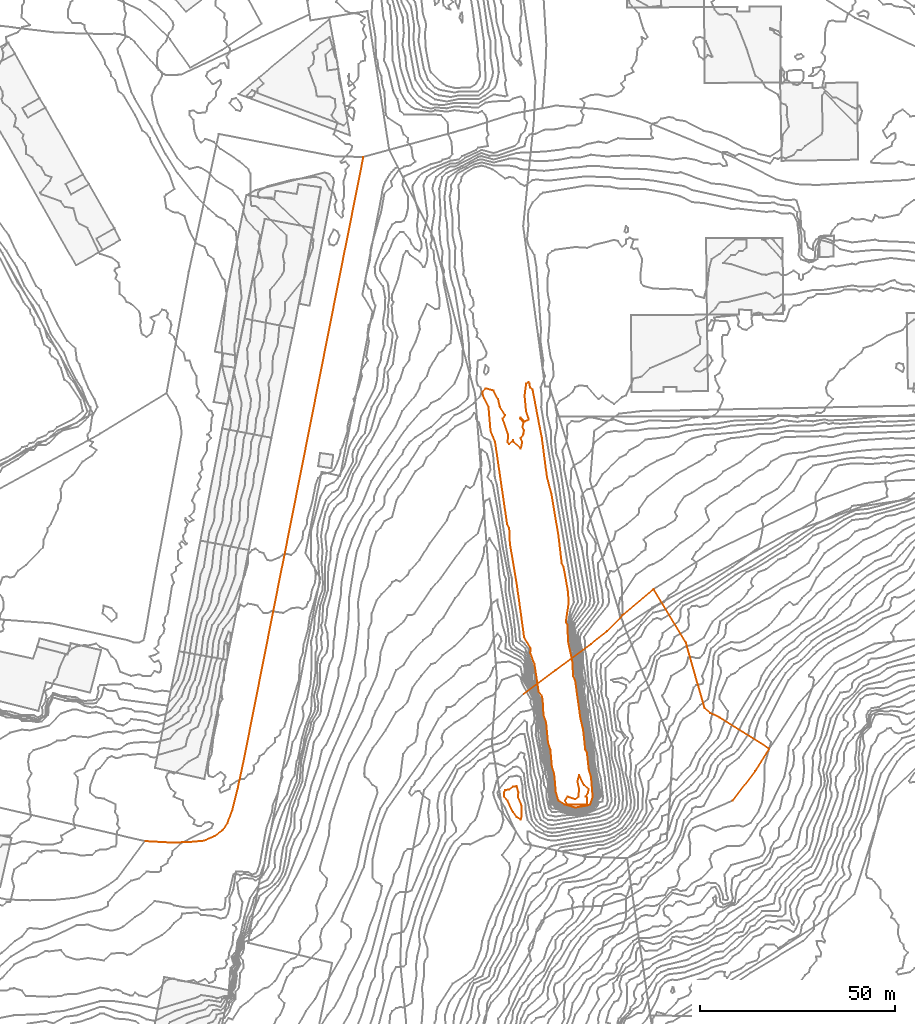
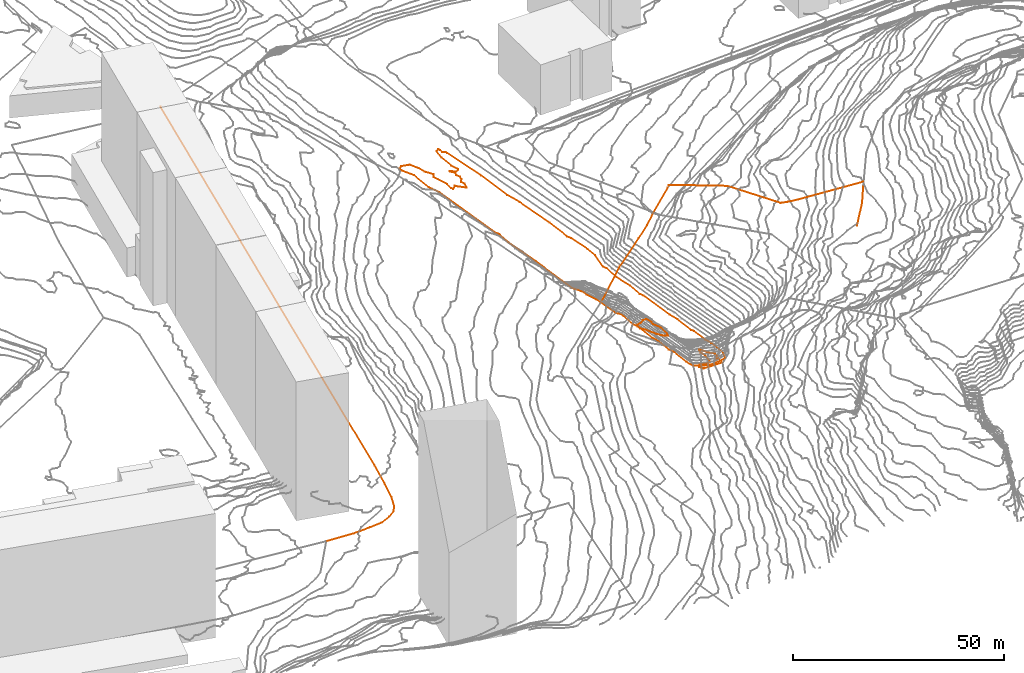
# Not in any storey, part 129 of 419: 9 proxies.
"""IFC2X3 model written with IfcOpenShell, lengths in metres."""

from ifc_helpers import new_model, entity, si_unit, frame, origin_with_axes, place, context, subcontext, project, element, save


model = new_model("IFC2X3")

# Units and contexts
model_context = context("Model", 3, precision=1e-05, world=origin_with_axes())
body_context = subcontext(model_context, "Body", "Model", "MODEL_VIEW")
ifc_project = project(units=[si_unit("AREAUNIT", "SQUARE_METRE"), si_unit("LENGTHUNIT", "METRE")], contexts=[model_context])

# Proxies
proxy_1_placement = place(None, frame((268.1920204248, 409.1976909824, 38.7192002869), z_axis=(0.0, 0.0, 1.0), x_axis=(1.0, 0.0, 0.0)))
element("IfcBuildingElementProxy", 1, at=proxy_1_placement, Name="Route 192", ObjectType="NOTDEFINED", context=body_context, shape_type="GeometricCurveSet", body=[
    entity("IfcGeometricCurveSet", [entity("IfcPolyline", [entity("IfcCartesianPoint", [0.0, 0.0, 0.0]), entity("IfcCartesianPoint", [8.3, -13.7000000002, 5.1011011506]), entity("IfcCartesianPoint", [13.1, -30.5999999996, 8.7589997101]), entity("IfcCartesianPoint", [14.5, -31.7999999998, 9.321798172]), entity("IfcCartesianPoint", [17.0, -33.0, 9.9675993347]), entity("IfcCartesianPoint", [29.7000000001, -41.0, 15.3653991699])])]),
])
proxy_2_placement = place(None, frame((288.4920204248, 354.8976909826, 52.8), z_axis=(0.0, 0.0, 1.0), x_axis=(1.0, 0.0, 0.0)))
element("IfcBuildingElementProxy", 2, at=proxy_2_placement, Name="Route 229", ObjectType="NOTDEFINED", context=body_context, shape_type="GeometricCurveSet", body=[
    entity("IfcGeometricCurveSet", [entity("IfcPolyline", [entity("IfcCartesianPoint", [9.4, 13.2999999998, 0.1]), entity("IfcCartesianPoint", [5.7999999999, 7.5999999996, 0.0]), entity("IfcCartesianPoint", [0.0, 0.0, 0.0])])]),
])
proxy_3_placement = place(None, frame((260.2920204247, 402.4976909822, 37.4), z_axis=(0.0, 0.0, 1.0), x_axis=(1.0, 0.0, 0.0)))
element("IfcBuildingElementProxy", 3, at=proxy_3_placement, Name="Route 235", ObjectType="NOTDEFINED", context=body_context, shape_type="GeometricCurveSet", body=[
    entity("IfcGeometricCurveSet", [entity("IfcPolyline", [entity("IfcCartesianPoint", [0.0, 0.0, 0.0]), entity("IfcCartesianPoint", [7.9, 6.7000000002, 0.5])])]),
])
proxy_4_placement = place(None, frame((252.0920204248, 395.0976909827, 37.5), z_axis=(0.0, 0.0, 1.0), x_axis=(1.0, 0.0, 0.0)))
element("IfcBuildingElementProxy", 4, at=proxy_4_placement, Name="Route 245", ObjectType="NOTDEFINED", context=body_context, shape_type="GeometricCurveSet", body=[
    entity("IfcGeometricCurveSet", [entity("IfcPolyline", [entity("IfcCartesianPoint", [0.0, 0.0, 0.0]), entity("IfcCartesianPoint", [4.2, 3.2999999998, 0.3]), entity("IfcCartesianPoint", [8.2, 7.3999999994, -0.1])])]),
])
proxy_5_placement = place(None, frame((234.6920204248, 382.1976909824, 33.5), z_axis=(0.0, 0.0, 1.0), x_axis=(1.0, 0.0, 0.0)))
element("IfcBuildingElementProxy", 5, at=proxy_5_placement, Name="Route 322", ObjectType="NOTDEFINED", context=body_context, shape_type="GeometricCurveSet", body=[
    entity("IfcGeometricCurveSet", [entity("IfcPolyline", [entity("IfcCartesianPoint", [0.0, 0.0, 0.0]), entity("IfcCartesianPoint", [8.3, 6.2000000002, 3.0]), entity("IfcCartesianPoint", [17.4, 12.9000000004, 4.0])])]),
])
proxy_6_placement = place(None, frame((137.5920204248, 344.4976909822, 20.8), z_axis=(0.0, 0.0, 1.0), x_axis=(1.0, 0.0, 0.0)))
element("IfcBuildingElementProxy", 6, at=proxy_6_placement, Name="Route 323", ObjectType="NOTDEFINED", context=body_context, shape_type="GeometricCurveSet", body=[
    entity("IfcGeometricCurveSet", [entity("IfcPolyline", [entity("IfcCartesianPoint", [0.0, 0.0, 0.0]), entity("IfcCartesianPoint", [7.2, -0.3999999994, 0.0]), entity("IfcCartesianPoint", [11.9, -0.1999999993, 0.0]), entity("IfcCartesianPoint", [15.2, 0.1000000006, 0.0]), entity("IfcCartesianPoint", [17.9, 1.3000000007, 0.0]), entity("IfcCartesianPoint", [20.0, 2.8000000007, 0.0]), entity("IfcCartesianPoint", [21.2, 4.6000000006, 0.0]), entity("IfcCartesianPoint", [22.5, 8.1000000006, 0.0]), entity("IfcCartesianPoint", [23.9, 13.7000000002, 0.0]), entity("IfcCartesianPoint", [25.5, 21.2000000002, 0.0]), entity("IfcCartesianPoint", [56.1, 175.6000000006, -0.7])])]),
])
proxy_7_placement = place(None, frame((245.4253537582, 354.8976909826, 27.0), z_axis=(0.0, 0.0, 1.0), x_axis=(1.0, 0.0, 0.0)))
element("IfcBuildingElementProxy", 7, at=proxy_7_placement, Name="Contour 27.0 m", ObjectType="NOTDEFINED", context=body_context, shape_type="GeometricCurveSet", body=[
    entity("IfcGeometricCurveSet", [entity("IfcPolyline", [entity("IfcCartesianPoint", [5.6666666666, -1.0194174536, 0.0]), entity("IfcCartesianPoint", [5.6666666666, 0.749996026, 0.0]), entity("IfcCartesianPoint", [5.3333262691, 1.0, 0.0]), entity("IfcCartesianPoint", [5.966665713, 2.0, 0.0]), entity("IfcCartesianPoint", [6.0555532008, 3.0, 0.0]), entity("IfcCartesianPoint", [4.8888935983, 4.0, 0.0]), entity("IfcCartesianPoint", [3.6666666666, 6.4999750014, 0.0]), entity("IfcCartesianPoint", [3.2380952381, 5.0, 0.0]), entity("IfcCartesianPoint", [3.6666757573, 3.0, 0.0]), entity("IfcCartesianPoint", [3.4666666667, 1.0, 0.0]), entity("IfcCartesianPoint", [2.6666666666, 0.333333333, 0.0]), entity("IfcCartesianPoint", [0.6666666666, 0.9999750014, 0.0]), entity("IfcCartesianPoint", [0.0, 0.0, 0.0]), entity("IfcCartesianPoint", [0.6666666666, -1.0167596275, 0.0]), entity("IfcCartesianPoint", [5.6666666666, -1.0194174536, 0.0])])]),
])
proxy_8_placement = place(None, frame((224.2920204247, 459.8976909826, 28.0), z_axis=(0.0, 0.0, 1.0), x_axis=(1.0, 0.0, 0.0)))
element("IfcBuildingElementProxy", 8, at=proxy_8_placement, Name="Contour 28.0 m", ObjectType="NOTDEFINED", context=body_context, shape_type="GeometricCurveSet", body=[
    entity("IfcGeometricCurveSet", [entity("IfcPolyline", [entity("IfcCartesianPoint", [26.8, -106.2621358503, 0.0]), entity("IfcCartesianPoint", [27.5999997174, -106.0, 0.0]), entity("IfcCartesianPoint", [28.2719100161, -104.0, 0.0]), entity("IfcCartesianPoint", [27.8574949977, -99.0, 0.0]), entity("IfcCartesianPoint", [27.2932125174, -97.0, 0.0]), entity("IfcCartesianPoint", [26.8, -92.6562497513, 0.0]), entity("IfcCartesianPoint", [26.3935487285, -92.0, 0.0]), entity("IfcCartesianPoint", [25.8, -86.5675667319, 0.0]), entity("IfcCartesianPoint", [25.1473283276, -84.0, 0.0]), entity("IfcCartesianPoint", [23.8, -74.139533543, 0.0]), entity("IfcCartesianPoint", [23.2748202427, -73.0, 0.0]), entity("IfcCartesianPoint", [23.0315436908, -69.0, 0.0]), entity("IfcCartesianPoint", [21.939013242, -64.0, 0.0]), entity("IfcCartesianPoint", [21.8339508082, -60.0, 0.0]), entity("IfcCartesianPoint", [21.3964918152, -59.0, 0.0]), entity("IfcCartesianPoint", [22.1454547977, -54.0, 0.0]), entity("IfcCartesianPoint", [21.8919538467, -51.0, 0.0]), entity("IfcCartesianPoint", [20.7999980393, -45.0, 0.0]), entity("IfcCartesianPoint", [20.3319156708, -44.0, 0.0]), entity("IfcCartesianPoint", [19.5051283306, -37.0, 0.0]), entity("IfcCartesianPoint", [17.6387092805, -26.0, 0.0]), entity("IfcCartesianPoint", [16.5586217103, -22.0, 0.0]), entity("IfcCartesianPoint", [15.2470586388, -12.0, 0.0]), entity("IfcCartesianPoint", [12.962161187, 0.0, 0.0]), entity("IfcCartesianPoint", [12.8, 0.5454561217, 0.0]), entity("IfcCartesianPoint", [12.1750089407, 1.0, 0.0]), entity("IfcCartesianPoint", [12.100005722, 2.0, 0.0]), entity("IfcCartesianPoint", [11.8, 2.4285714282, 0.0]), entity("IfcCartesianPoint", [11.2000000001, 2.0, 0.0]), entity("IfcCartesianPoint", [10.8000111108, -1.0, 0.0]), entity("IfcCartesianPoint", [11.1846119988, -5.0, 0.0]), entity("IfcCartesianPoint", [11.8333339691, -7.0, 0.0]), entity("IfcCartesianPoint", [11.8, -7.25, 0.0]), entity("IfcCartesianPoint", [10.8, -7.666666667, 0.0]), entity("IfcCartesianPoint", [9.8, -6.666666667, 0.0]), entity("IfcCartesianPoint", [9.6999980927, -7.0, 0.0]), entity("IfcCartesianPoint", [10.55, -8.0, 0.0]), entity("IfcCartesianPoint", [10.2285714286, -9.0, 0.0]), entity("IfcCartesianPoint", [10.6333280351, -10.0, 0.0]), entity("IfcCartesianPoint", [10.4666666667, -11.0, 0.0]), entity("IfcCartesianPoint", [9.8000333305, -12.0, 0.0]), entity("IfcCartesianPoint", [10.2000000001, -13.0, 0.0]), entity("IfcCartesianPoint", [9.8, -14.666666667, 0.0]), entity("IfcCartesianPoint", [8.0, -13.0, 0.0]), entity("IfcCartesianPoint", [7.8, -12.5000499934, 0.0]), entity("IfcCartesianPoint", [6.8, -13.5000499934, 0.0]), entity("IfcCartesianPoint", [6.4666666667, -13.0, 0.0]), entity("IfcCartesianPoint", [6.55, -11.0, 0.0]), entity("IfcCartesianPoint", [5.163642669, -7.0, 0.0]), entity("IfcCartesianPoint", [5.7999857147, -6.0, 0.0]), entity("IfcCartesianPoint", [4.4666613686, -4.0, 0.0]), entity("IfcCartesianPoint", [4.0000038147, -2.0, 0.0]), entity("IfcCartesianPoint", [2.8, 0.25, 0.0]), entity("IfcCartesianPoint", [0.8, 0.7999999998, 0.0]), entity("IfcCartesianPoint", [0.0, 0.0, 0.0]), entity("IfcCartesianPoint", [0.0916656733, -1.0, 0.0]), entity("IfcCartesianPoint", [1.5499993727, -4.0, 0.0]), entity("IfcCartesianPoint", [2.0571430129, -10.0, 0.0]), entity("IfcCartesianPoint", [3.2404771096, -13.0, 0.0]), entity("IfcCartesianPoint", [6.322726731, -34.0, 0.0]), entity("IfcCartesianPoint", [6.8588248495, -35.0, 0.0]), entity("IfcCartesianPoint", [7.0307694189, -39.0, 0.0]), entity("IfcCartesianPoint", [8.7384602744, -49.0, 0.0]), entity("IfcCartesianPoint", [10.687499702, -63.0, 0.0]), entity("IfcCartesianPoint", [12.361403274, -66.0, 0.0]), entity("IfcCartesianPoint", [12.2549999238, -67.0, 0.0]), entity("IfcCartesianPoint", [13.3450000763, -70.0, 0.0]), entity("IfcCartesianPoint", [14.4130436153, -77.0, 0.0]), entity("IfcCartesianPoint", [15.2104471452, -78.0, 0.0]), entity("IfcCartesianPoint", [15.4320752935, -79.0, 0.0]), entity("IfcCartesianPoint", [15.6603695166, -83.0, 0.0]), entity("IfcCartesianPoint", [16.3343918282, -85.0, 0.0]), entity("IfcCartesianPoint", [16.8, -89.9999954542, 0.0]), entity("IfcCartesianPoint", [17.4356275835, -92.0, 0.0]), entity("IfcCartesianPoint", [17.8, -96.2999992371, 0.0]), entity("IfcCartesianPoint", [18.3940596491, -98.0, 0.0]), entity("IfcCartesianPoint", [18.8, -102.7397258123, 0.0]), entity("IfcCartesianPoint", [19.456521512, -105.0, 0.0]), entity("IfcCartesianPoint", [21.0428573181, -106.0, 0.0]), entity("IfcCartesianPoint", [23.8, -106.7968749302, 0.0]), entity("IfcCartesianPoint", [26.8, -106.2621358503, 0.0])])]),
])
proxy_9_placement = place(None, frame((229.7647466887, 356.8976909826, 43.0), z_axis=(0.0, 0.0, 1.0), x_axis=(1.0, 0.0, 0.0)))
element("IfcBuildingElementProxy", 9, at=proxy_9_placement, Name="Contour 43.0 m", ObjectType="NOTDEFINED", context=body_context, shape_type="GeometricCurveSet", body=[
    entity("IfcGeometricCurveSet", [entity("IfcPolyline", [entity("IfcCartesianPoint", [4.5895683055, -6.0, 0.0]), entity("IfcCartesianPoint", [4.3272737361, -6.8421105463, 0.0]), entity("IfcCartesianPoint", [3.3272737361, -6.2307647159, 0.0]), entity("IfcCartesianPoint", [2.3272737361, -4.8823516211, 0.0]), entity("IfcCartesianPoint", [0.9225144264, -2.0, 0.0]), entity("IfcCartesianPoint", [0.0928975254, -1.0, 0.0]), entity("IfcCartesianPoint", [0.0, 0.0, 0.0]), entity("IfcCartesianPoint", [0.3272737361, 0.6923031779, 0.0]), entity("IfcCartesianPoint", [1.3272737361, 0.8823516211, 0.0]), entity("IfcCartesianPoint", [2.3272737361, 1.5999999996, 0.0]), entity("IfcCartesianPoint", [3.3272737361, 1.6667090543, 0.0]), entity("IfcCartesianPoint", [3.7535027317, 0.0, 0.0]), entity("IfcCartesianPoint", [3.60000227, -1.0, 0.0]), entity("IfcCartesianPoint", [4.4831164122, -3.0, 0.0]), entity("IfcCartesianPoint", [4.5895683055, -6.0, 0.0])])]),
])

save(model, "model.ifc")
